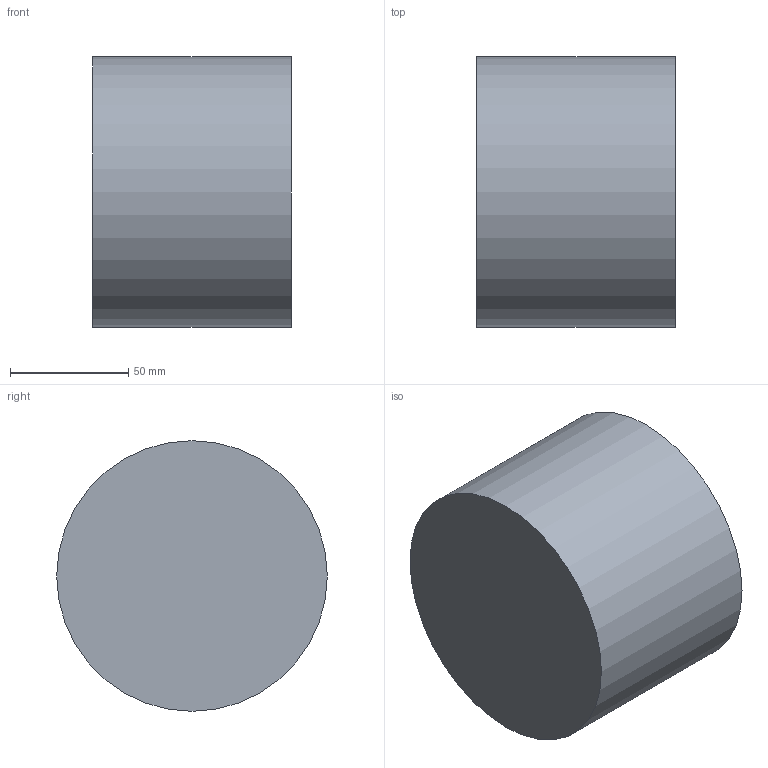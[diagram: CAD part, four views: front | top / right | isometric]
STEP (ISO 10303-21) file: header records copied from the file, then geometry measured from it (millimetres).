
FILE_DESCRIPTION(/* description */ (''),/* implementation_level */ '2;1');
FILE_NAME(/* name */ 'Endkappe 114.3.stp',/* time_stamp */ '2024-03-12T15:59:21+01:00',/* author */ ('peter.csaszar'),/* organization */ (''),/* preprocessor_version */ 'ST-DEVELOPER v20',/* originating_system */ 'Autodesk Inventor 2024',/* authorisation */ '');
FILE_SCHEMA (('AUTOMOTIVE_DESIGN { 1 0 10303 214 3 1 1 }'));
Length unit declared in the file: millimetre
Products named in the file (1): Bauteil1
Bounding box: 84 x 114.3 x 114.3 mm (x, y, z)
Volume: 78381 mm3; surface area: 79099.2 mm2
Topology: 1 solids, 1 shells, 5 faces, 6 edges, 4 vertices
Faces by surface type: plane 3, cylinder 2
Full cylindrical faces by diameter (mm): 110.3 x1, 114.3 x1
Entity records: 147 total; most frequent: DIRECTION 22, CARTESIAN_POINT 16, ORIENTED_EDGE 12, AXIS2_PLACEMENT_3D 10, EDGE_LOOP 6, EDGE_CURVE 6, FACE_OUTER_BOUND 5, ADVANCED_FACE 5
